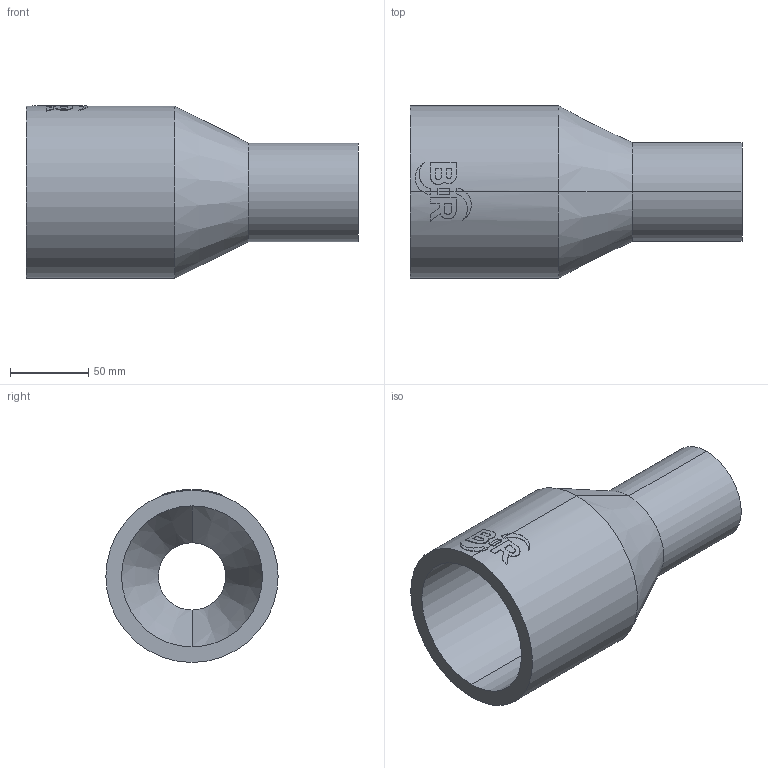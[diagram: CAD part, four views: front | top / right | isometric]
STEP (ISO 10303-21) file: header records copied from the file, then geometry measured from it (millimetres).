
FILE_DESCRIPTION (( 'STEP AP214' ), '1' );
FILE_NAME ('2323141115.STEP', '2018-07-20T09:53:03', ( '' ), ( '' ), 'SwSTEP 2.0', 'SolidWorks 2017', '' );
FILE_SCHEMA (( 'AUTOMOTIVE_DESIGN' ));
Length unit declared in the file: millimetre
Products named in the file (1): 2323141115
Bounding box: 212 x 110 x 110.46 mm (x, y, z)
Volume: 539772.3 mm3; surface area: 112866.3 mm2
Topology: 1 solids, 1 shells, 63 faces, 160 edges, 104 vertices
Faces by surface type: cylinder 31, plane 28, cone 4
Entity records: 3182 total; most frequent: CARTESIAN_POINT 973, ORIENTED_EDGE 320, DIRECTION 296, EDGE_CURVE 160, AXIS2_PLACEMENT_3D 112, VERTEX_POINT 104, LINE 72, VECTOR 72
